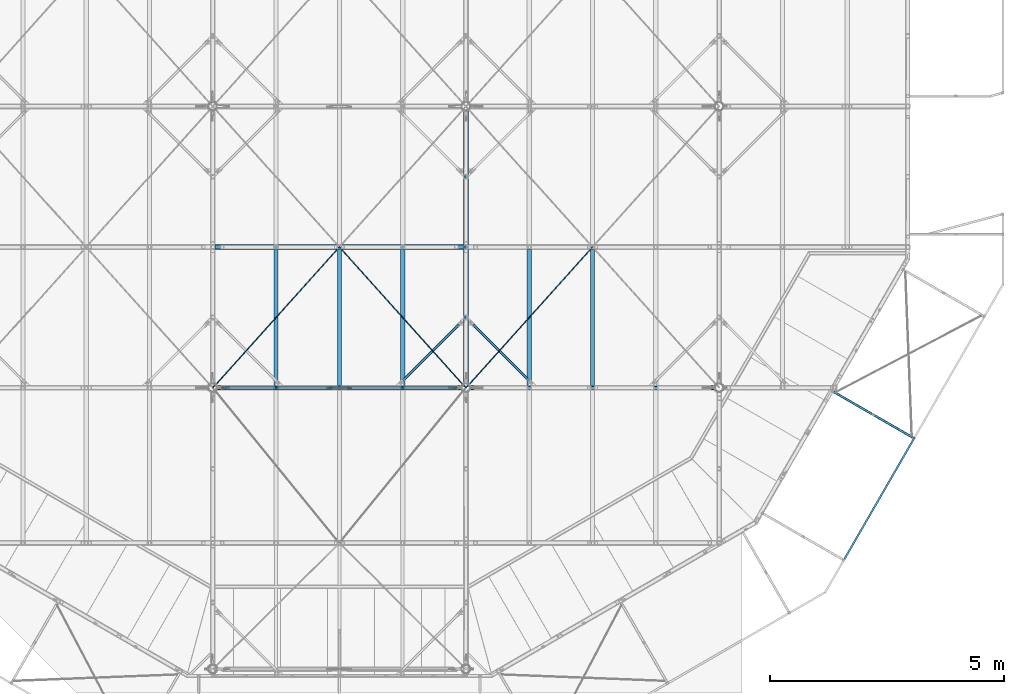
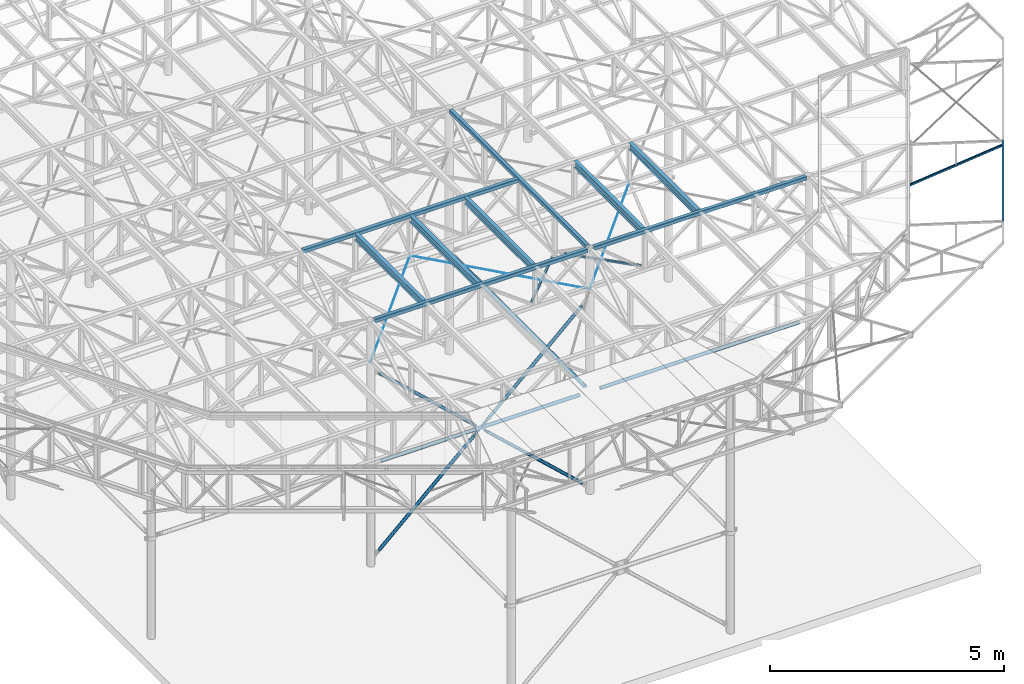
# One storey, part 12 of 132: 18 beams, 8 members, 26 elements without a shape of their own.
"""IFC2X3 building model written with IfcOpenShell, lengths in millimetres."""

from ifc_helpers import new_model, si_unit, frame, origin_with_axes, origin_2d_with_axis, place, context, subcontext, project, spatial, rectangle, hollow_rectangle, circle, hollow_circle, i_section, u_section, extrude, boolean, clip, halfspace, material, type_object, element, aggregate, save


model = new_model("IFC2X3")

# Units and contexts
model_context = context("Model", 3, precision=1e-05, world=origin_with_axes())
body_context = subcontext(model_context, "Body", "Model", "MODEL_VIEW")
ifc_project = project(units=[si_unit("LENGTHUNIT", "METRE", prefix="MILLI"), si_unit("AREAUNIT", "SQUARE_METRE"), si_unit("VOLUMEUNIT", "CUBIC_METRE"), si_unit("MASSUNIT", "GRAM", prefix="KILO"), si_unit("TIMEUNIT", "SECOND"), si_unit("PLANEANGLEUNIT", "RADIAN"), si_unit("SOLIDANGLEUNIT", "STERADIAN"), si_unit("THERMODYNAMICTEMPERATUREUNIT", "DEGREE_CELSIUS"), si_unit("LUMINOUSINTENSITYUNIT", "LUMEN")], contexts=[model_context])

# Site, building, storey
site_placement = place(None, origin_with_axes())
site = spatial("IfcSite", under=ifc_project, at=site_placement, Name="Budowa", CompositionType="ELEMENT")
building_placement = place(site_placement, origin_with_axes())
building = spatial("IfcBuilding", under=site, at=building_placement, Name="Undefined", CompositionType="ELEMENT")
storey_placement = place(building_placement, origin_with_axes())
storey = spatial("IfcBuildingStorey", under=building, at=storey_placement, Name="Undefined", CompositionType="ELEMENT", Elevation=0.0)

# Assembly, member
assembly_1_placement = place(storey_placement, origin_with_axes())
assembly_1 = element("IfcElementAssembly", 1, at=assembly_1_placement, inside=storey, Name="Steel Assembly", AssemblyPlace="NOTDEFINED", PredefinedType="RIGID_FRAME")
ifc_material_1 = material(Name="STEEL/S235JR")
member_type_1 = type_object("IfcMemberType", Name="CHS76.1*3", PredefinedType="NOTDEFINED")
member_1_placement = place(assembly_1_placement, frame((12125.000921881, 5990.00000005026, 10115.9999960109), z_axis=(0.0, -1.0, 0.0), x_axis=(-0.734552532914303, 0.0, -0.67855182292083)))
member_1 = element("IfcMember", 2, at=member_1_placement, type_object=member_type_1, material=ifc_material_1, Name="BEAM", ObjectType="CHS76.1*3", context=body_context, shape_type="CSG", body=[
    boolean("DIFFERENCE", boolean("DIFFERENCE", boolean("DIFFERENCE", boolean("DIFFERENCE", extrude(hollow_circle(Radius=38.05, WallThickness=3.0, at=origin_2d_with_axis()), frame((3399.19882110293, 0.0, 0.0), z_axis=(-1.0, 0.0, 0.0), x_axis=(0.0, -1.0, 0.0)), (0.0, 0.0, 1.0), 3169.77), extrude(rectangle(XDim=10.0, YDim=80.1, at=origin_2d_with_axis()), frame((310.424006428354, -6.75809408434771e-12, 2.93223274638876e-06), z_axis=(-1.0, 0.0, 0.0), x_axis=(0.0, 0.0, -1.0)), (0.0, 0.0, 1.0), 83.0)), extrude(rectangle(XDim=10.0, YDim=78.1, at=origin_2d_with_axis()), frame((3318.19882110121, -3.83376469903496e-07, 2.42306487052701e-06), z_axis=(1.0, 0.0, 0.0), x_axis=(0.0, 0.0, -1.0)), (0.0, 0.0, 1.0), 93.0)), halfspace(frame((3399.19882110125, -3.83374754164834e-07, -11.9999975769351), z_axis=(-1.0, 0.0, 0.0), x_axis=(0.0, 1.0, 0.0)), True)), halfspace(frame((229.424006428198, -7.27595761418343e-12, -11.9999970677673), z_axis=(1.0, 0.0, 0.0), x_axis=(0.0, -1.0, 0.0)), True)),
])
aggregate(assembly_1, [member_1])

assembly_2_placement = place(storey_placement, origin_with_axes())
assembly_2 = element("IfcElementAssembly", 3, at=assembly_2_placement, inside=storey, Name="Steel Assembly", AssemblyPlace="NOTDEFINED", PredefinedType="RIGID_FRAME")
member_2_placement = place(assembly_2_placement, frame((12125.0013347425, 5990.00000005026, 10116.0003779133), z_axis=(0.0, -1.0, 0.0), x_axis=(0.734552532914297, 0.0, -0.678551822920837)))
member_2 = element("IfcMember", 4, at=member_2_placement, type_object=member_type_1, material=ifc_material_1, Name="BEAM", ObjectType="CHS76.1*3", context=body_context, shape_type="CSG", body=[
    boolean("DIFFERENCE", boolean("DIFFERENCE", boolean("DIFFERENCE", boolean("DIFFERENCE", extrude(hollow_circle(Radius=38.05, WallThickness=3.0, at=origin_2d_with_axis()), frame((3399.19575233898, -1.88693269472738e-13, 0.0), z_axis=(-1.0, 0.0, 0.0), x_axis=(0.0, -1.0, 0.0)), (0.0, 0.0, 1.0), 3169.77), extrude(rectangle(XDim=10.0, YDim=80.1, at=origin_2d_with_axis()), frame((310.424563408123, 8.74467165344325e-13, 2.93223274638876e-06), z_axis=(-1.0, 0.0, 0.0), x_axis=(0.0, 0.0, -1.0)), (0.0, 0.0, 1.0), 83.0)), extrude(rectangle(XDim=10.0, YDim=78.1, at=origin_2d_with_axis()), frame((3318.19575233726, 0.0, 2.70282180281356e-06), z_axis=(1.0, 0.0, 0.0), x_axis=(0.0, 0.0, -1.0)), (0.0, 0.0, 1.0), 93.0)), halfspace(frame((3399.1957523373, -5.45696821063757e-12, -11.9999972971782), z_axis=(-1.0, 0.0, 0.0), x_axis=(0.0, 1.0, 0.0)), True)), halfspace(frame((229.424563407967, 5.45696821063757e-12, -11.9999970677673), z_axis=(1.0, 0.0, 0.0), x_axis=(0.0, -1.0, 0.0)), True)),
])
aggregate(assembly_2, [member_2])

assembly_3_placement = place(storey_placement, origin_with_axes())
assembly_3 = element("IfcElementAssembly", 5, at=assembly_3_placement, inside=storey, Name="Steel Assembly", AssemblyPlace="NOTDEFINED", PredefinedType="RIGID_FRAME")
member_3_placement = place(assembly_3_placement, frame((14684.1014860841, 5990.00000005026, 12480.0002212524), z_axis=(0.0, -1.0, 0.0), x_axis=(-0.734552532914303, 0.0, -0.67855182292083)))
member_3 = element("IfcMember", 6, at=member_3_placement, type_object=member_type_1, material=ifc_material_1, Name="BEAM", ObjectType="CHS76.1*3", context=body_context, shape_type="CSG", body=[
    boolean("DIFFERENCE", boolean("DIFFERENCE", boolean("DIFFERENCE", boolean("DIFFERENCE", extrude(hollow_circle(Radius=38.05, WallThickness=3.0, at=origin_2d_with_axis()), frame((3254.46533546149, 0.0, 0.0), z_axis=(-1.0, 0.0, 0.0), x_axis=(0.0, -1.0, 0.0)), (0.0, 0.0, 1.0), 3169.77), extrude(rectangle(XDim=10.0, YDim=80.1, at=origin_2d_with_axis()), frame((3173.46533545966, 5.74262859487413e-12, 3.21735569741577e-06), z_axis=(1.0, 0.0, 0.0), x_axis=(0.0, 0.0, -1.0)), (0.0, 0.0, 1.0), 83.0)), extrude(rectangle(XDim=10.0, YDim=78.1, at=origin_2d_with_axis()), frame((165.694149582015, 0.0, 2.42306850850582e-06), z_axis=(-1.0, 0.0, 0.0), x_axis=(0.0, 0.0, -1.0)), (0.0, 0.0, 1.0), 93.0)), halfspace(frame((3254.46533545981, 3.63797880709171e-12, -11.9999967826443), z_axis=(-1.0, 0.0, 0.0), x_axis=(0.0, 1.0, 0.0)), True)), halfspace(frame((84.6941495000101, -0.00128033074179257, -11.9999975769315), z_axis=(1.0, 0.0, 0.0), x_axis=(0.0, -1.0, 0.0)), True)),
])
aggregate(assembly_3, [member_3])

assembly_4_placement = place(storey_placement, origin_with_axes())
assembly_4 = element("IfcElementAssembly", 7, at=assembly_4_placement, inside=storey, Name="Steel Assembly", AssemblyPlace="NOTDEFINED", PredefinedType="RIGID_FRAME")
member_4_placement = place(assembly_4_placement, frame((9565.90118396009, 5990.00000005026, 12480.0002212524), z_axis=(0.0, -1.0, 0.0), x_axis=(0.734552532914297, 0.0, -0.678551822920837)))
member_4 = element("IfcMember", 8, at=member_4_placement, type_object=member_type_1, material=ifc_material_1, Name="BEAM", ObjectType="CHS76.1*3", context=body_context, shape_type="CSG", body=[
    boolean("DIFFERENCE", boolean("DIFFERENCE", boolean("DIFFERENCE", boolean("DIFFERENCE", extrude(hollow_circle(Radius=38.05, WallThickness=3.0, at=origin_2d_with_axis()), frame((3254.46533546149, 0.0, 0.0), z_axis=(-1.0, 0.0, 0.0), x_axis=(0.0, -1.0, 0.0)), (0.0, 0.0, 1.0), 3169.77), extrude(rectangle(XDim=10.0, YDim=80.1, at=origin_2d_with_axis()), frame((3173.46533545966, 5.74262859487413e-12, 3.21735569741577e-06), z_axis=(1.0, 0.0, 0.0), x_axis=(0.0, 0.0, -1.0)), (0.0, 0.0, 1.0), 83.0)), extrude(rectangle(XDim=10.0, YDim=78.1, at=origin_2d_with_axis()), frame((165.690516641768, -1.58151269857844e-12, 2.52268364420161e-06), z_axis=(-1.0, 0.0, 0.0), x_axis=(0.0, 0.0, -1.0)), (0.0, 0.0, 1.0), 93.0)), halfspace(frame((3254.46533545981, 3.63797880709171e-12, -11.9999967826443), z_axis=(-1.0, 0.0, 0.0), x_axis=(0.0, 1.0, 0.0)), True)), halfspace(frame((84.6905166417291, 1.81898940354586e-12, -11.9999974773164), z_axis=(1.0, 0.0, 0.0), x_axis=(0.0, -1.0, 0.0)), True)),
])
aggregate(assembly_4, [member_4])

# Assembly, beam
assembly_5_placement = place(storey_placement, origin_with_axes())
assembly_5 = element("IfcElementAssembly", 9, at=assembly_5_placement, inside=storey, Name="Steel Assembly", AssemblyPlace="NOTDEFINED", PredefinedType="RIGID_FRAME")
beam_type_1 = type_object("IfcBeamType", Name="CHS88.9*3", PredefinedType="NOTDEFINED")
beam_1_placement = place(assembly_5_placement, frame((14913.9011382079, 5998.00000287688, 10116.0003779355), z_axis=(0.0, -1.0, 0.0), x_axis=(1.0, 0.0, 0.0)))
beam_1 = element("IfcBeam", 10, at=beam_1_placement, type_object=beam_type_1, material=ifc_material_1, Name="BEAM", ObjectType="CHS88.9*3", context=body_context, shape_type="CSG", body=[
    boolean("DIFFERENCE", boolean("DIFFERENCE", boolean("DIFFERENCE", boolean("DIFFERENCE", boolean("DIFFERENCE", extrude(hollow_circle(Radius=44.45, WallThickness=3.0, at=origin_2d_with_axis()), frame((5057.96216744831, 0.0, 0.0), z_axis=(-1.0, 0.0, 0.0), x_axis=(0.0, -1.0, 0.0)), (0.0, 0.0, 1.0), 4893.73), extrude(rectangle(XDim=9.0, YDim=92.9, at=origin_2d_with_axis()), frame((265.235555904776, 1.81898940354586e-12, 3.42543353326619e-06), z_axis=(-1.0, 0.0, 0.0), x_axis=(0.0, 0.0, 1.0)), (0.0, 0.0, 1.0), 103.0)), extrude(rectangle(XDim=9.0, YDim=92.9, at=origin_2d_with_axis()), frame((4956.96216744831, 1.81898940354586e-12, 3.42543353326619e-06), z_axis=(1.0, 0.0, 0.0), x_axis=(0.0, 0.0, -1.0)), (0.0, 0.0, 1.0), 103.0)), extrude(rectangle(XDim=8.0, YDim=80.1, at=origin_2d_with_axis()), frame((5006.96216666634, 0.0, 2.93223274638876e-06), z_axis=(1.0, 0.0, 0.0), x_axis=(0.0, 0.0, 1.0)), (0.0, 0.0, 1.0), 82.0)), halfspace(frame((5057.96216744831, 1.81898940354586e-12, -11.9999965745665), z_axis=(-1.0, 0.0, 0.0), x_axis=(0.0, 1.0, 0.0)), True)), halfspace(frame((164.235555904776, 1.81898940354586e-12, -11.9999965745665), z_axis=(1.0, 0.0, 0.0), x_axis=(0.0, 0.0, 1.0)), True)),
])
aggregate(assembly_5, [beam_1])

assembly_6_placement = place(storey_placement, origin_with_axes())
assembly_6 = element("IfcElementAssembly", 11, at=assembly_6_placement, inside=storey, Name="Steel Assembly", AssemblyPlace="NOTDEFINED", PredefinedType="RIGID_FRAME")
beam_2_placement = place(assembly_6_placement, frame((14832.9999935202, 6088.90000004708, 10116.0003779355), z_axis=(1.0, 0.0, 0.0), x_axis=(0.0, 1.0, 0.0)))
beam_2 = element("IfcBeam", 12, at=beam_2_placement, type_object=beam_type_1, material=ifc_material_1, Name="BEAM", ObjectType="CHS88.9*3", context=body_context, shape_type="CSG", body=[
    boolean("DIFFERENCE", boolean("DIFFERENCE", boolean("DIFFERENCE", boolean("DIFFERENCE", extrude(hollow_circle(Radius=44.45, WallThickness=3.0, at=origin_2d_with_axis()), frame((5703.19209466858, 0.0, 0.0), z_axis=(-1.0, 0.0, 0.0), x_axis=(0.0, -1.0, 0.0)), (0.0, 0.0, 1.0), 5584.18), extrude(rectangle(XDim=9.0, YDim=92.9, at=origin_2d_with_axis()), frame((5602.19209466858, 0.0, 3.70549059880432e-06), z_axis=(1.0, 0.0, 0.0), x_axis=(0.0, 0.0, -1.0)), (0.0, 0.0, 1.0), 103.0)), extrude(rectangle(XDim=9.0, YDim=92.9, at=origin_2d_with_axis()), frame((220.00790537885, 0.0, 3.42542261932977e-06), z_axis=(-1.0, 0.0, 0.0), x_axis=(0.0, 0.0, -1.0)), (0.0, 0.0, 1.0), 103.0)), halfspace(frame((5703.19209466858, 0.0, -11.9999962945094), z_axis=(-1.0, 0.0, 0.0), x_axis=(0.0, 1.0, 0.0)), True)), halfspace(frame((119.00790537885, 0.0, -11.9999965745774), z_axis=(1.0, 0.0, 0.0), x_axis=(0.0, -1.0, 0.0)), True)),
])
aggregate(assembly_6, [beam_2])

assembly_7_placement = place(storey_placement, origin_with_axes())
assembly_7 = element("IfcElementAssembly", 13, at=assembly_7_placement, inside=storey, Name="Steel Assembly", AssemblyPlace="NOTDEFINED", PredefinedType="RIGID_FRAME")
beam_3_placement = place(assembly_7_placement, frame((9513.90113818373, 5998.00000287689, 10116.0003779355), z_axis=(0.0, -1.0, 0.0), x_axis=(1.0, 0.0, 0.0)))
beam_3 = element("IfcBeam", 14, at=beam_3_placement, type_object=beam_type_1, material=ifc_material_1, Name="BEAM", ObjectType="CHS88.9*3", context=body_context, shape_type="CSG", body=[
    boolean("DIFFERENCE", boolean("DIFFERENCE", boolean("DIFFERENCE", boolean("DIFFERENCE", boolean("DIFFERENCE", extrude(hollow_circle(Radius=44.45, WallThickness=3.0, at=origin_2d_with_axis()), frame((5057.96216744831, 0.0, 0.0), z_axis=(-1.0, 0.0, 0.0), x_axis=(0.0, -1.0, 0.0)), (0.0, 0.0, 1.0), 4893.73), extrude(rectangle(XDim=9.0, YDim=92.9, at=origin_2d_with_axis()), frame((265.235555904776, 1.81898940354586e-12, 3.42543353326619e-06), z_axis=(-1.0, 0.0, 0.0), x_axis=(0.0, 0.0, 1.0)), (0.0, 0.0, 1.0), 103.0)), extrude(rectangle(XDim=9.0, YDim=92.9, at=origin_2d_with_axis()), frame((4956.96216744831, 1.81898940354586e-12, 3.42543353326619e-06), z_axis=(1.0, 0.0, 0.0), x_axis=(0.0, 0.0, -1.0)), (0.0, 0.0, 1.0), 103.0)), extrude(rectangle(XDim=8.0, YDim=80.1, at=origin_2d_with_axis()), frame((5006.96216666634, 0.0, 2.93223274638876e-06), z_axis=(1.0, 0.0, 0.0), x_axis=(0.0, 0.0, 1.0)), (0.0, 0.0, 1.0), 82.0)), halfspace(frame((5057.96216744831, 1.81898940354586e-12, -11.9999965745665), z_axis=(-1.0, 0.0, 0.0), x_axis=(0.0, 1.0, 0.0)), True)), halfspace(frame((164.235555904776, 1.81898940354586e-12, -11.9999965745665), z_axis=(1.0, 0.0, 0.0), x_axis=(0.0, 0.0, 1.0)), True)),
])
aggregate(assembly_7, [beam_3])

# Assembly, member
assembly_8_placement = place(storey_placement, origin_with_axes())
assembly_8 = element("IfcElementAssembly", 15, at=assembly_8_placement, inside=storey, Name="Steel Assembly", AssemblyPlace="NOTDEFINED", PredefinedType="RIGID_FRAME")
ifc_material_2 = material(Name="STEEL/S235")
member_type_2 = type_object("IfcMemberType", Name="CHS60.3*6.3", PredefinedType="NOTDEFINED")
member_5_placement = place(assembly_8_placement, frame((12125.0013347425, 5992.00000005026, 10116.0003779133), z_axis=(0.0, -1.0, 0.0), x_axis=(0.734552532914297, 0.0, -0.678551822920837)))
member_5 = element("IfcMember", 16, at=member_5_placement, type_object=member_type_2, material=ifc_material_2, Name="BEAM", ObjectType="CHS60.3*6.3", context=body_context, shape_type="CSG", body=[
    boolean("DIFFERENCE", boolean("DIFFERENCE", boolean("DIFFERENCE", boolean("DIFFERENCE", extrude(hollow_circle(Radius=30.15, WallThickness=6.3, at=origin_2d_with_axis()), frame((3409.19575233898, -1.89248380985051e-13, -3.63797880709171e-12), z_axis=(-1.0, 0.0, 0.0), x_axis=(0.0, -1.0, 0.0)), (0.0, 0.0, 1.0), 3266.98), extrude(rectangle(XDim=8.0, YDim=64.3, at=origin_2d_with_axis()), frame((3359.19575233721, 2.18269846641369e-12, 2.70281816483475e-06), z_axis=(1.0, 0.0, 0.0), x_axis=(0.0, 0.0, -1.0)), (0.0, 0.0, 1.0), 52.0)), extrude(rectangle(XDim=8.0, YDim=64.3, at=origin_2d_with_axis()), frame((192.216896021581, -3.32911476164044e-12, 2.323435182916e-06), z_axis=(-1.0, 0.0, 0.0), x_axis=(0.0, 0.0, -1.0)), (0.0, 0.0, 1.0), 52.0)), halfspace(frame((3409.1957523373, 0.0, -11.9999972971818), z_axis=(-1.0, 0.0, 0.0), x_axis=(0.0, 1.0, 0.0)), True)), halfspace(frame((142.216896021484, -5.45696821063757e-12, -11.9999976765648), z_axis=(1.0, 0.0, 0.0), x_axis=(0.0, -1.0, 0.0)), True)),
])
aggregate(assembly_8, [member_5])

assembly_9_placement = place(storey_placement, origin_with_axes())
assembly_9 = element("IfcElementAssembly", 17, at=assembly_9_placement, inside=storey, Name="Steel Assembly", AssemblyPlace="NOTDEFINED", PredefinedType="RIGID_FRAME")
member_6_placement = place(assembly_9_placement, frame((14684.1014860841, 5992.00000005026, 12480.0002212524), z_axis=(0.0, -1.0, 0.0), x_axis=(-0.734552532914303, 0.0, -0.67855182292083)))
member_6 = element("IfcMember", 18, at=member_6_placement, type_object=member_type_2, material=ifc_material_2, Name="BEAM", ObjectType="CHS60.3*6.3", context=body_context, shape_type="CSG", body=[
    boolean("DIFFERENCE", boolean("DIFFERENCE", boolean("DIFFERENCE", boolean("DIFFERENCE", extrude(hollow_circle(Radius=30.15, WallThickness=6.3, at=origin_2d_with_axis()), frame((6893.08928483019, 3.82643321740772e-13, -3.63797880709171e-12), z_axis=(-1.0, 0.0, 0.0), x_axis=(0.0, -1.0, 0.0)), (0.0, 0.0, 1.0), 6818.4), extrude(rectangle(XDim=8.0, YDim=64.3, at=origin_2d_with_axis()), frame((124.694149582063, -2.13606909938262e-13, 2.42306487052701e-06), z_axis=(-1.0, 0.0, 0.0), x_axis=(0.0, 0.0, -1.0)), (0.0, 0.0, 1.0), 52.0)), extrude(rectangle(XDim=8.0, YDim=64.3, at=origin_2d_with_axis()), frame((6843.08928482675, 2.23465690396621e-12, 2.42306487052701e-06), z_axis=(1.0, 0.0, 0.0), x_axis=(0.0, 0.0, -1.0)), (0.0, 0.0, 1.0), 52.0)), halfspace(frame((6893.08928482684, 4.54747350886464e-12, -11.9999975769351), z_axis=(-1.0, 0.0, 0.0), x_axis=(0.0, 1.0, 0.0)), True)), halfspace(frame((74.6941495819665, -3.63797880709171e-12, -11.9999975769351), z_axis=(1.0, 0.0, 0.0), x_axis=(0.0, -1.0, 0.0)), True)),
])
aggregate(assembly_9, [member_6])

assembly_10_placement = place(storey_placement, origin_with_axes())
assembly_10 = element("IfcElementAssembly", 19, at=assembly_10_placement, inside=storey, Name="Steel Assembly", AssemblyPlace="NOTDEFINED", PredefinedType="RIGID_FRAME")
member_7_placement = place(assembly_10_placement, frame((9565.90118396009, 5992.00000005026, 12480.0002212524), z_axis=(0.0, -1.0, 0.0), x_axis=(0.734552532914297, 0.0, -0.678551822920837)))
member_7 = element("IfcMember", 20, at=member_7_placement, type_object=member_type_2, material=ifc_material_2, Name="BEAM", ObjectType="CHS60.3*6.3", context=body_context, shape_type="CSG", body=[
    boolean("DIFFERENCE", boolean("DIFFERENCE", boolean("DIFFERENCE", boolean("DIFFERENCE", extrude(hollow_circle(Radius=30.15, WallThickness=6.3, at=origin_2d_with_axis()), frame((3341.67300460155, 1.85500115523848e-13, 3.63797880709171e-12), z_axis=(-1.0, 0.0, 0.0), x_axis=(0.0, -1.0, 0.0)), (0.0, 0.0, 1.0), 3266.98), extrude(rectangle(XDim=8.0, YDim=64.3, at=origin_2d_with_axis()), frame((124.690516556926, 3.26183524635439e-13, 2.52269092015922e-06), z_axis=(-1.0, 0.0, 0.0), x_axis=(0.0, 0.0, -1.0)), (0.0, 0.0, 1.0), 52.0)), extrude(rectangle(XDim=8.0, YDim=64.3, at=origin_2d_with_axis()), frame((3291.67300459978, 1.0103029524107e-12, 2.52269092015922e-06), z_axis=(1.0, 0.0, 0.0), x_axis=(0.0, 0.0, -1.0)), (0.0, 0.0, 1.0), 52.0)), halfspace(frame((3341.67300459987, 0.0, -11.9999974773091), z_axis=(-1.0, 0.0, 0.0), x_axis=(0.0, 1.0, 0.0)), True)), halfspace(frame((74.6905165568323, 3.63797880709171e-12, -11.9999974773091), z_axis=(1.0, 0.0, 0.0), x_axis=(0.0, -1.0, 0.0)), True)),
])
aggregate(assembly_10, [member_7])

# Assembly, beam
assembly_11_placement = place(storey_placement, origin_with_axes())
assembly_11 = element("IfcElementAssembly", 21, at=assembly_11_placement, inside=storey, Name="Steel Assembly", AssemblyPlace="NOTDEFINED", PredefinedType="RIGID_FRAME")
beam_type_2 = type_object("IfcBeamType", Name="IPE180", PredefinedType="NOTDEFINED")
beam_4_placement = place(assembly_11_placement, frame((16174.9999999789, 6050.00000004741, 13790.0), z_axis=(0.0, 0.0, 1.0), x_axis=(0.0, 1.0, 0.0)))
beam_4 = element("IfcBeam", 22, at=beam_4_placement, type_object=beam_type_2, material=ifc_material_2, Name="BEAM", ObjectType="IPE180", context=body_context, shape_type="SweptSolid", body=[
    extrude(i_section(OverallWidth=91.0, OverallDepth=180.0, WebThickness=5.300000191, FlangeThickness=8.0, FilletRadius=9.0, at=origin_2d_with_axis()), frame((2900.00000000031, 0.0, 0.0), z_axis=(-1.0, 0.0, 0.0), x_axis=(0.0, -1.0, 0.0)), (0.0, 0.0, 1.0), 2900.0),
])
aggregate(assembly_11, [beam_4])

assembly_12_placement = place(storey_placement, origin_with_axes())
assembly_12 = element("IfcElementAssembly", 23, at=assembly_12_placement, inside=storey, Name="Steel Assembly", AssemblyPlace="NOTDEFINED", PredefinedType="RIGID_FRAME")
beam_5_placement = place(assembly_12_placement, frame((17524.9999999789, 6050.00000004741, 13790.0), z_axis=(0.0, 0.0, 1.0), x_axis=(0.0, 1.0, 0.0)))
beam_5 = element("IfcBeam", 24, at=beam_5_placement, type_object=beam_type_2, material=ifc_material_2, Name="BEAM", ObjectType="IPE180", context=body_context, shape_type="SweptSolid", body=[
    extrude(i_section(OverallWidth=91.0, OverallDepth=180.0, WebThickness=5.300000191, FlangeThickness=8.0, FilletRadius=9.0, at=origin_2d_with_axis()), frame((2900.00000000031, 0.0, 0.0), z_axis=(-1.0, 0.0, 0.0), x_axis=(0.0, -1.0, 0.0)), (0.0, 0.0, 1.0), 2900.0),
])
aggregate(assembly_12, [beam_5])

assembly_13_placement = place(storey_placement, origin_with_axes())
assembly_13 = element("IfcElementAssembly", 25, at=assembly_13_placement, inside=storey, Name="Steel Assembly", AssemblyPlace="NOTDEFINED", PredefinedType="RIGID_FRAME")
beam_6_placement = place(assembly_13_placement, frame((10774.9999999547, 6050.00000004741, 13790.0), z_axis=(0.0, 0.0, 1.0), x_axis=(0.0, 1.0, 0.0)))
beam_6 = element("IfcBeam", 26, at=beam_6_placement, type_object=beam_type_2, material=ifc_material_2, Name="BEAM", ObjectType="IPE180", context=body_context, shape_type="SweptSolid", body=[
    extrude(i_section(OverallWidth=91.0, OverallDepth=180.0, WebThickness=5.300000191, FlangeThickness=8.0, FilletRadius=9.0, at=origin_2d_with_axis()), frame((2900.00000000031, 0.0, 0.0), z_axis=(-1.0, 0.0, 0.0), x_axis=(0.0, -1.0, 0.0)), (0.0, 0.0, 1.0), 2900.0),
])
aggregate(assembly_13, [beam_6])

assembly_14_placement = place(storey_placement, origin_with_axes())
assembly_14 = element("IfcElementAssembly", 27, at=assembly_14_placement, inside=storey, Name="Steel Assembly", AssemblyPlace="NOTDEFINED", PredefinedType="RIGID_FRAME")
beam_7_placement = place(assembly_14_placement, frame((13474.9999999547, 6050.00000004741, 13790.0), z_axis=(0.0, 0.0, 1.0), x_axis=(0.0, 1.0, 0.0)))
beam_7 = element("IfcBeam", 28, at=beam_7_placement, type_object=beam_type_2, material=ifc_material_2, Name="BEAM", ObjectType="IPE180", context=body_context, shape_type="SweptSolid", body=[
    extrude(i_section(OverallWidth=91.0, OverallDepth=180.0, WebThickness=5.300000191, FlangeThickness=8.0, FilletRadius=9.0, at=origin_2d_with_axis()), frame((2900.00000000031, 0.0, 0.0), z_axis=(-1.0, 0.0, 0.0), x_axis=(0.0, -1.0, 0.0)), (0.0, 0.0, 1.0), 2900.0),
])
aggregate(assembly_14, [beam_7])

assembly_15_placement = place(storey_placement, origin_with_axes())
assembly_15 = element("IfcElementAssembly", 29, at=assembly_15_placement, inside=storey, Name="Steel Assembly", AssemblyPlace="NOTDEFINED", PredefinedType="RIGID_FRAME")
beam_8_placement = place(assembly_15_placement, frame((12124.9999999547, 6050.00000004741, 13790.0), z_axis=(0.0, 0.0, 1.0), x_axis=(0.0, 1.0, 0.0)))
beam_8 = element("IfcBeam", 30, at=beam_8_placement, type_object=beam_type_2, material=ifc_material_2, Name="BEAM", ObjectType="IPE180", context=body_context, shape_type="SweptSolid", body=[
    extrude(i_section(OverallWidth=91.0, OverallDepth=180.0, WebThickness=5.300000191, FlangeThickness=8.0, FilletRadius=9.0, at=origin_2d_with_axis()), frame((2900.00000000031, 0.0, 0.0), z_axis=(-1.0, 0.0, 0.0), x_axis=(0.0, -1.0, 0.0)), (0.0, 0.0, 1.0), 2900.0),
])
aggregate(assembly_15, [beam_8])

assembly_16_placement = place(storey_placement, origin_with_axes())
assembly_16 = element("IfcElementAssembly", 31, at=assembly_16_placement, inside=storey, Name="Steel Assembly", AssemblyPlace="NOTDEFINED", PredefinedType="RIGID_FRAME")
beam_type_3 = type_object("IfcBeamType", Name="C70*40*4", PredefinedType="NOTDEFINED")
beam_9_placement = place(assembly_16_placement, frame((22895.4679843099, 2344.79998955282, 13945.0050192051), z_axis=(-4.93841132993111e-07, -8.55724813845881e-07, -0.999999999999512), x_axis=(0.499969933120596, 0.866042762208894, -9.88000000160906e-07)))
beam_9 = element("IfcBeam", 32, at=beam_9_placement, type_object=beam_type_3, material=ifc_material_2, Name="BEAM", ObjectType="C70*40*4", context=body_context, shape_type="SweptSolid", body=[
    extrude(u_section(Depth=70.0, FlangeWidth=40.0, WebThickness=4.0, FlangeThickness=4.0, FilletRadius=6.0, at=origin_2d_with_axis()), frame((2949.99999995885, 1.63757896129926e-13, 0.0), z_axis=(-1.0, 0.0, 0.0), x_axis=(0.0, -1.0, 0.0)), (0.0, 0.0, 1.0), 2950.0),
])
aggregate(assembly_16, [beam_9])

# Assembly, member
assembly_17_placement = place(storey_placement, origin_with_axes())
assembly_17 = element("IfcElementAssembly", 33, at=assembly_17_placement, inside=storey, Name="Steel Assembly", AssemblyPlace="NOTDEFINED", PredefinedType="RIGID_FRAME")
member_type_3 = type_object("IfcMemberType", Name="SHS50*4", PredefinedType="NOTDEFINED")
member_8_placement = place(assembly_17_placement, frame((22658.0136234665, 5917.04850884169, 12802.1351883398), z_axis=(-0.499969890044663, -0.866042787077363, 0.0), x_axis=(0.766800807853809, -0.442677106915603, 0.464815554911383)))
member_8 = element("IfcMember", 34, at=member_8_placement, type_object=member_type_3, material=ifc_material_2, Name="BEAM", ObjectType="SHS50*4", context=body_context, shape_type="Clipping", body=[
    clip(clip(extrude(hollow_rectangle(XDim=50.0, YDim=50.0, WallThickness=4.0, InnerFilletRadius=4.0, OuterFilletRadius=8.0, at=origin_2d_with_axis()), frame((2325.27637080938, 1.2907876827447e-13, 5.21059351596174e-14), z_axis=(-1.0, 0.0, 0.0), x_axis=(0.0, -1.0, 0.0)), (0.0, 0.0, 1.0), 2325.28), halfspace(frame((26.2486785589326, 24.9999999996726, -25.0000000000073), z_axis=(-0.885407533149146, 0.464815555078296, 0.0), x_axis=(0.0, 0.0, 1.0)), False)), halfspace(frame((2258.9602037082, -25.0000000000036, -1.40062184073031e-10), z_axis=(-0.855808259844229, -0.517293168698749, 0.0), x_axis=(0.0, 0.0, -1.0)), True)),
])
aggregate(assembly_17, [member_8])

# Assembly, beam
assembly_18_placement = place(storey_placement, origin_with_axes())
assembly_18 = element("IfcElementAssembly", 35, at=assembly_18_placement, inside=storey, Name="Steel Assembly", AssemblyPlace="NOTDEFINED", PredefinedType="RIGID_FRAME")
beam_type_4 = type_object("IfcBeamType", Name="D16", PredefinedType="NOTDEFINED")
beam_10_placement = place(assembly_18_placement, frame((17524.999998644, 9000.00000005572, 12780.0), z_axis=(0.0, 0.0, 1.0), x_axis=(-0.668964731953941, -0.743294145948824, 0.0)))
beam_10 = element("IfcBeam", 36, at=beam_10_placement, type_object=beam_type_4, material=ifc_material_2, Name="BEAM", ObjectType="D16", context=body_context, shape_type="SweptSolid", body=[
    extrude(circle(Radius=8.0, at=origin_2d_with_axis()), frame((4036.08721501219, 2.30699503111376e-13, 1.81898940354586e-12), z_axis=(-1.0, 0.0, 0.0), x_axis=(0.0, -1.0, 0.0)), (0.0, 0.0, 1.0), 4036.09),
])
aggregate(assembly_18, [beam_10])

assembly_19_placement = place(storey_placement, origin_with_axes())
assembly_19 = element("IfcElementAssembly", 37, at=assembly_19_placement, inside=storey, Name="Steel Assembly", AssemblyPlace="NOTDEFINED", PredefinedType="RIGID_FRAME")
beam_11_placement = place(assembly_19_placement, frame((12124.9999986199, 9000.00000005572, 12780.0), z_axis=(0.0, 0.0, 1.0), x_axis=(-0.668964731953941, -0.743294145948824, 0.0)))
beam_11 = element("IfcBeam", 38, at=beam_11_placement, type_object=beam_type_4, material=ifc_material_2, Name="BEAM", ObjectType="D16", context=body_context, shape_type="SweptSolid", body=[
    extrude(circle(Radius=8.0, at=origin_2d_with_axis()), frame((4036.08721501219, 2.30699503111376e-13, 1.81898940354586e-12), z_axis=(-1.0, 0.0, 0.0), x_axis=(0.0, -1.0, 0.0)), (0.0, 0.0, 1.0), 4036.09),
])
aggregate(assembly_19, [beam_11])

assembly_20_placement = place(storey_placement, origin_with_axes())
assembly_20 = element("IfcElementAssembly", 39, at=assembly_20_placement, inside=storey, Name="Steel Assembly", AssemblyPlace="NOTDEFINED", PredefinedType="RIGID_FRAME")
beam_12_placement = place(assembly_20_placement, frame((14824.9999999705, 6000.00000004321, 12780.0), z_axis=(0.0, 0.0, 1.0), x_axis=(-0.668964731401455, 0.743294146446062, 0.0)))
beam_12 = element("IfcBeam", 40, at=beam_12_placement, type_object=beam_type_4, material=ifc_material_2, Name="BEAM", ObjectType="D16", context=body_context, shape_type="SweptSolid", body=[
    extrude(circle(Radius=8.0, at=origin_2d_with_axis()), frame((4036.08721501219, 2.30699503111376e-13, 1.81898940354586e-12), z_axis=(-1.0, 0.0, 0.0), x_axis=(0.0, -1.0, 0.0)), (0.0, 0.0, 1.0), 4036.09),
])
aggregate(assembly_20, [beam_12])

assembly_21_placement = place(storey_placement, origin_with_axes())
assembly_21 = element("IfcElementAssembly", 41, at=assembly_21_placement, inside=storey, Name="Steel Assembly", AssemblyPlace="NOTDEFINED", PredefinedType="RIGID_FRAME")
beam_type_5 = type_object("IfcBeamType", Name="SHS50*5", PredefinedType="NOTDEFINED")
beam_13_placement = place(assembly_21_placement, frame((14574.999999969, 7749.80000010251, 12830.0), z_axis=(0.0, 0.0, 1.0), x_axis=(0.707106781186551, -0.707106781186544, 0.0)))
beam_13 = element("IfcBeam", 42, at=beam_13_placement, type_object=beam_type_5, material=ifc_material_2, Name="BEAM", ObjectType="SHS50*5", context=body_context, shape_type="Clipping", body=[
    clip(clip(extrude(hollow_rectangle(XDim=50.0, YDim=50.0, WallThickness=5.0, InnerFilletRadius=5.0, OuterFilletRadius=10.0, at=origin_2d_with_axis()), frame((2264.08122086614, 0.0, 0.0), z_axis=(-1.0, 0.0, 0.0), x_axis=(0.0, -1.0, 0.0)), (0.0, 0.0, 1.0), 1700.02), halfspace(frame((2264.08122086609, 9.09494701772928e-11, -9.0), z_axis=(-1.0, 0.0, 0.0), x_axis=(0.0, 1.0, 0.0)), True)), halfspace(frame((564.063061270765, -1.43882061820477e-09, -8.99999999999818), z_axis=(1.0, 0.0, 0.0), x_axis=(0.0, -1.0, 0.0)), True)),
])
aggregate(assembly_21, [beam_13])

assembly_22_placement = place(storey_placement, origin_with_axes())
assembly_22 = element("IfcElementAssembly", 43, at=assembly_22_placement, inside=storey, Name="Steel Assembly", AssemblyPlace="NOTDEFINED", PredefinedType="RIGID_FRAME")
beam_14_placement = place(assembly_22_placement, frame((15074.9999999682, 7749.80000010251, 12830.0), z_axis=(0.0, 0.0, 1.0), x_axis=(-0.70710678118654, -0.707106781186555, 0.0)))
beam_14 = element("IfcBeam", 44, at=beam_14_placement, type_object=beam_type_5, material=ifc_material_2, Name="BEAM", ObjectType="SHS50*5", context=body_context, shape_type="Clipping", body=[
    clip(clip(extrude(hollow_rectangle(XDim=50.0, YDim=50.0, WallThickness=5.0, InnerFilletRadius=5.0, OuterFilletRadius=10.0, at=origin_2d_with_axis()), frame((2264.08122086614, 0.0, 0.0), z_axis=(-1.0, 0.0, 0.0), x_axis=(0.0, -1.0, 0.0)), (0.0, 0.0, 1.0), 1700.02), halfspace(frame((2264.08122086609, 9.09494701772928e-11, -9.0), z_axis=(-1.0, 0.0, 0.0), x_axis=(0.0, 1.0, 0.0)), True)), halfspace(frame((564.063061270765, -1.43882061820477e-09, -8.99999999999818), z_axis=(1.0, 0.0, 0.0), x_axis=(0.0, -1.0, 0.0)), True)),
])
aggregate(assembly_22, [beam_14])

assembly_23_placement = place(storey_placement, origin_with_axes())
assembly_23 = element("IfcElementAssembly", 45, at=assembly_23_placement, inside=storey, Name="Steel Assembly", AssemblyPlace="NOTDEFINED", PredefinedType="RIGID_FRAME")
beam_type_6 = type_object("IfcBeamType", Name="SHS100*8", PredefinedType="NOTDEFINED")
beam_15_placement = place(assembly_23_placement, frame((9474.9999999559, 9000.00000004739, 13830.0), z_axis=(0.0, -1.0, 0.0), x_axis=(1.0, 0.0, 0.0)))
beam_15 = element("IfcBeam", 46, at=beam_15_placement, type_object=beam_type_6, material=ifc_material_2, Name="BEAM", ObjectType="SHS100*8", context=body_context, shape_type="SweptSolid", body=[
    extrude(hollow_rectangle(XDim=100.0, YDim=100.0, WallThickness=8.0, InnerFilletRadius=8.0, OuterFilletRadius=16.0, at=origin_2d_with_axis()), frame((5300.0, 0.0, 0.0), z_axis=(-1.0, 0.0, 0.0), x_axis=(0.0, -1.0, 0.0)), (0.0, 0.0, 1.0), 5300.0),
])
aggregate(assembly_23, [beam_15])

assembly_24_placement = place(storey_placement, origin_with_axes())
assembly_24 = element("IfcElementAssembly", 47, at=assembly_24_placement, inside=storey, Name="Steel Assembly", AssemblyPlace="NOTDEFINED", PredefinedType="RIGID_FRAME")
beam_16_placement = place(assembly_24_placement, frame((14824.999999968, 6088.90000004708, 13830.0), z_axis=(1.0, 0.0, 0.0), x_axis=(0.0, 1.0, 0.0)))
beam_16 = element("IfcBeam", 48, at=beam_16_placement, type_object=beam_type_6, material=ifc_material_2, Name="BEAM", ObjectType="SHS100*8", context=body_context, shape_type="CSG", body=[
    boolean("DIFFERENCE", boolean("DIFFERENCE", boolean("DIFFERENCE", boolean("DIFFERENCE", extrude(hollow_rectangle(XDim=100.0, YDim=100.0, WallThickness=8.0, InnerFilletRadius=8.0, OuterFilletRadius=16.0, at=origin_2d_with_axis()), frame((5911.09999999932, 0.0, 0.0), z_axis=(-1.0, 0.0, 0.0), x_axis=(0.0, -1.0, 0.0)), (0.0, 0.0, 1.0), 6000.0), extrude(circle(Radius=89.9, at=origin_2d_with_axis()), frame((5911.09999999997, 1950.0, 0.0), z_axis=(0.0, -1.0, 0.0), x_axis=(-1.0, 0.0, 0.0)), (0.0, 0.0, 1.0), 2100.0)), extrude(circle(Radius=89.9, at=origin_2d_with_axis()), frame((-88.9000000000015, 1950.0, -5.45696821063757e-12), z_axis=(0.0, -1.0, 0.0), x_axis=(-1.0, 0.0, 0.0)), (0.0, 0.0, 1.0), 2100.0)), halfspace(frame((5911.09999999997, -6339.0, -6.3664629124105e-12), z_axis=(-1.0, 0.0, 0.0), x_axis=(0.0, 0.0, -1.0)), True)), halfspace(frame((-88.9000000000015, -6339.0, -5.45696821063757e-12), z_axis=(-1.0, 0.0, 0.0), x_axis=(0.0, 0.0, -1.0)), False)),
])
aggregate(assembly_24, [beam_16])

assembly_25_placement = place(storey_placement, origin_with_axes())
assembly_25 = element("IfcElementAssembly", 49, at=assembly_25_placement, inside=storey, Name="Steel Assembly", AssemblyPlace="NOTDEFINED", PredefinedType="RIGID_FRAME")
beam_17_placement = place(assembly_25_placement, frame((14913.9999999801, 6000.00000004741, 13830.0), z_axis=(0.0, -1.0, 0.0), x_axis=(1.0, 0.0, 0.0)))
beam_17 = element("IfcBeam", 50, at=beam_17_placement, type_object=beam_type_6, material=ifc_material_2, Name="BEAM", ObjectType="SHS100*8", context=body_context, shape_type="CSG", body=[
    boolean("DIFFERENCE", boolean("DIFFERENCE", boolean("DIFFERENCE", boolean("DIFFERENCE", extrude(hollow_rectangle(XDim=100.0, YDim=100.0, WallThickness=8.0, InnerFilletRadius=8.0, OuterFilletRadius=16.0, at=origin_2d_with_axis()), frame((5311.00000001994, 0.0, 0.0), z_axis=(-1.0, 0.0, 0.0), x_axis=(0.0, -1.0, 0.0)), (0.0, 0.0, 1.0), 5400.0), extrude(circle(Radius=89.9, at=origin_2d_with_axis()), frame((5311.00000001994, 1950.0, 7.27595761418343e-12), z_axis=(0.0, -1.0, 0.0), x_axis=(0.0, 0.0, 1.0)), (0.0, 0.0, 1.0), 2100.0)), extrude(circle(Radius=89.9, at=origin_2d_with_axis()), frame((-89.0000000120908, 1950.0, 1.09139364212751e-11), z_axis=(0.0, -1.0, 0.0), x_axis=(0.0, 0.0, 1.0)), (0.0, 0.0, 1.0), 2100.0)), halfspace(frame((5311.00000001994, -6339.0, 7.27595761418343e-12), z_axis=(-1.0, 0.0, 0.0), x_axis=(0.0, 0.0, -1.0)), True)), halfspace(frame((-89.0000000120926, -6339.0, 1.09139364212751e-11), z_axis=(-1.0, 0.0, 0.0), x_axis=(0.0, 0.0, -1.0)), False)),
])
aggregate(assembly_25, [beam_17])

assembly_26_placement = place(storey_placement, origin_with_axes())
assembly_26 = element("IfcElementAssembly", 51, at=assembly_26_placement, inside=storey, Name="Steel Assembly", AssemblyPlace="NOTDEFINED", PredefinedType="RIGID_FRAME")
beam_18_placement = place(assembly_26_placement, frame((9513.99999995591, 6000.00000004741, 13830.0), z_axis=(0.0, -1.0, 0.0), x_axis=(1.0, 0.0, 0.0)))
beam_18 = element("IfcBeam", 52, at=beam_18_placement, type_object=beam_type_6, material=ifc_material_2, Name="BEAM", ObjectType="SHS100*8", context=body_context, shape_type="CSG", body=[
    boolean("DIFFERENCE", boolean("DIFFERENCE", boolean("DIFFERENCE", boolean("DIFFERENCE", extrude(hollow_rectangle(XDim=100.0, YDim=100.0, WallThickness=8.0, InnerFilletRadius=8.0, OuterFilletRadius=16.0, at=origin_2d_with_axis()), frame((5311.00000001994, 0.0, 0.0), z_axis=(-1.0, 0.0, 0.0), x_axis=(0.0, -1.0, 0.0)), (0.0, 0.0, 1.0), 5400.0), extrude(circle(Radius=89.9, at=origin_2d_with_axis()), frame((-89.0000000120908, 1950.0, 1.09139364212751e-11), z_axis=(0.0, -1.0, 0.0), x_axis=(0.0, 0.0, 1.0)), (0.0, 0.0, 1.0), 2100.0)), extrude(circle(Radius=89.9, at=origin_2d_with_axis()), frame((5311.00000001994, 1950.0, 7.27595761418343e-12), z_axis=(0.0, -1.0, 0.0), x_axis=(0.0, 0.0, 1.0)), (0.0, 0.0, 1.0), 2100.0)), halfspace(frame((5311.00000001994, -6339.0, 7.27595761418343e-12), z_axis=(-1.0, 0.0, 0.0), x_axis=(0.0, 0.0, -1.0)), True)), halfspace(frame((-89.0000000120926, -6339.0, 1.09139364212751e-11), z_axis=(-1.0, 0.0, 0.0), x_axis=(0.0, 0.0, -1.0)), False)),
])
aggregate(assembly_26, [beam_18])

save(model, "model.ifc")
